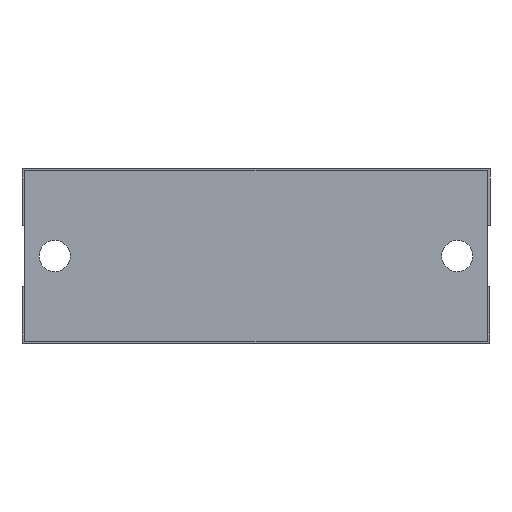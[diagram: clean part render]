
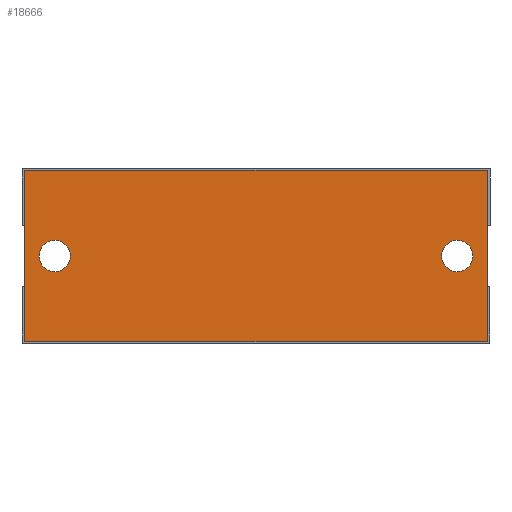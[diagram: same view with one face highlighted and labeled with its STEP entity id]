
A CAD part, front view. The second image highlights one B-rep face of the part: STEP entity #18666.
In plain terms, the highlighted planar face has unit normal (0, -1, 0).
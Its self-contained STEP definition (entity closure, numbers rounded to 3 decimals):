
#103 = EDGE_CURVE ( 'NONE', #24134, #15596, #21585, .T. ) ;
#644 = DIRECTION ( 'NONE',  ( 0., 0., 1. ) ) ;
#749 = CARTESIAN_POINT ( 'NONE',  ( 40., -4., -3.1 ) ) ;
#958 = CARTESIAN_POINT ( 'NONE',  ( 46., -4., 17. ) ) ;
#1143 = VERTEX_POINT ( 'NONE', #749 ) ;
#1159 = CIRCLE ( 'NONE', #1672, 3.1 ) ;
#1249 = DIRECTION ( 'NONE',  ( 1., 0., 0. ) ) ;
#1648 = ORIENTED_EDGE ( 'NONE', *, *, #28047, .F. ) ;
#1672 = AXIS2_PLACEMENT_3D ( 'NONE', #27754, #3573, #23577 ) ;
#1909 = DIRECTION ( 'NONE',  ( 0., 0., 1. ) ) ;
#2005 = EDGE_CURVE ( 'NONE', #8022, #1143, #21288, .T. ) ;
#2029 = CIRCLE ( 'NONE', #25755, 3.1 ) ;
#2237 = VERTEX_POINT ( 'NONE', #12286 ) ;
#2317 = DIRECTION ( 'NONE',  ( -1., 0., 0. ) ) ;
#3573 = DIRECTION ( 'NONE',  ( 0., 1., 0. ) ) ;
#5420 = ORIENTED_EDGE ( 'NONE', *, *, #15374, .T. ) ;
#7353 = VECTOR ( 'NONE', #644, 1000. ) ;
#7406 = EDGE_CURVE ( 'NONE', #1143, #8022, #2029, .T. ) ;
#7451 = DIRECTION ( 'NONE',  ( 0., 0., 1. ) ) ;
#8022 = VERTEX_POINT ( 'NONE', #15067 ) ;
#8197 = ORIENTED_EDGE ( 'NONE', *, *, #9764, .F. ) ;
#8342 = VECTOR ( 'NONE', #2317, 1000. ) ;
#9375 = DIRECTION ( 'NONE',  ( 0., 1., 0. ) ) ;
#9764 = EDGE_CURVE ( 'NONE', #18146, #24134, #27531, .T. ) ;
#10134 = LINE ( 'NONE', #14367, #7353 ) ;
#10954 = DIRECTION ( 'NONE',  ( 0., 1., 0. ) ) ;
#12286 = CARTESIAN_POINT ( 'NONE',  ( -46., -4., -17. ) ) ;
#12523 = VECTOR ( 'NONE', #1249, 1000. ) ;
#13111 = EDGE_CURVE ( 'NONE', #15596, #2237, #20191, .T. ) ;
#13323 = FACE_OUTER_BOUND ( 'NONE', #28425, .T. ) ;
#13801 = AXIS2_PLACEMENT_3D ( 'NONE', #15955, #22685, #27179 ) ;
#13976 = EDGE_LOOP ( 'NONE', ( #5420, #26952 ) ) ;
#14291 = VERTEX_POINT ( 'NONE', #23171 ) ;
#14367 = CARTESIAN_POINT ( 'NONE',  ( -46., -4., 17. ) ) ;
#15067 = CARTESIAN_POINT ( 'NONE',  ( 40., -4., 3.1 ) ) ;
#15192 = CARTESIAN_POINT ( 'NONE',  ( 40., -4., 0. ) ) ;
#15374 = EDGE_CURVE ( 'NONE', #16764, #14291, #16405, .T. ) ;
#15416 = FACE_BOUND ( 'NONE', #13976, .T. ) ;
#15596 = VERTEX_POINT ( 'NONE', #18290 ) ;
#15955 = CARTESIAN_POINT ( 'NONE',  ( 0., -4., 0. ) ) ;
#16017 = ORIENTED_EDGE ( 'NONE', *, *, #103, .F. ) ;
#16405 = CIRCLE ( 'NONE', #26751, 3.1 ) ;
#16764 = VERTEX_POINT ( 'NONE', #18304 ) ;
#16880 = EDGE_CURVE ( 'NONE', #14291, #16764, #1159, .T. ) ;
#17443 = CARTESIAN_POINT ( 'NONE',  ( 46., -4., 17. ) ) ;
#17507 = PLANE ( 'NONE',  #13801 ) ;
#17613 = CARTESIAN_POINT ( 'NONE',  ( -46., -4., 17. ) ) ;
#18146 = VERTEX_POINT ( 'NONE', #17613 ) ;
#18290 = CARTESIAN_POINT ( 'NONE',  ( 46., -4., -17. ) ) ;
#18304 = CARTESIAN_POINT ( 'NONE',  ( -40., -4., -3.1 ) ) ;
#18387 = CARTESIAN_POINT ( 'NONE',  ( 40., -4., 0. ) ) ;
#18447 = AXIS2_PLACEMENT_3D ( 'NONE', #15192, #10954, #1909 ) ;
#18666 = ADVANCED_FACE ( 'NONE', ( #13323, #21373, #15416 ), #17507, .F. ) ;
#18683 = CARTESIAN_POINT ( 'NONE',  ( 46., -4., 17. ) ) ;
#20191 = LINE ( 'NONE', #21687, #8342 ) ;
#21288 = CIRCLE ( 'NONE', #18447, 3.1 ) ;
#21373 = FACE_BOUND ( 'NONE', #22919, .T. ) ;
#21585 = LINE ( 'NONE', #958, #24717 ) ;
#21687 = CARTESIAN_POINT ( 'NONE',  ( 46., -4., -17. ) ) ;
#21729 = CARTESIAN_POINT ( 'NONE',  ( -40., -4., 0. ) ) ;
#22078 = ORIENTED_EDGE ( 'NONE', *, *, #2005, .T. ) ;
#22685 = DIRECTION ( 'NONE',  ( 0., 1., 0. ) ) ;
#22919 = EDGE_LOOP ( 'NONE', ( #25518, #22078 ) ) ;
#23171 = CARTESIAN_POINT ( 'NONE',  ( -40., -4., 3.1 ) ) ;
#23577 = DIRECTION ( 'NONE',  ( 0., 0., -1. ) ) ;
#23790 = DIRECTION ( 'NONE',  ( 0., 0., -1. ) ) ;
#24134 = VERTEX_POINT ( 'NONE', #17443 ) ;
#24717 = VECTOR ( 'NONE', #25324, 1000. ) ;
#25324 = DIRECTION ( 'NONE',  ( 0., 0., -1. ) ) ;
#25518 = ORIENTED_EDGE ( 'NONE', *, *, #7406, .T. ) ;
#25755 = AXIS2_PLACEMENT_3D ( 'NONE', #18387, #9375, #7451 ) ;
#26010 = DIRECTION ( 'NONE',  ( 0., 1., 0. ) ) ;
#26751 = AXIS2_PLACEMENT_3D ( 'NONE', #21729, #26010, #23790 ) ;
#26952 = ORIENTED_EDGE ( 'NONE', *, *, #16880, .T. ) ;
#27179 = DIRECTION ( 'NONE',  ( 0., 0., 1. ) ) ;
#27531 = LINE ( 'NONE', #18683, #12523 ) ;
#27701 = ORIENTED_EDGE ( 'NONE', *, *, #13111, .F. ) ;
#27754 = CARTESIAN_POINT ( 'NONE',  ( -40., -4., 0. ) ) ;
#28047 = EDGE_CURVE ( 'NONE', #2237, #18146, #10134, .T. ) ;
#28425 = EDGE_LOOP ( 'NONE', ( #1648, #27701, #16017, #8197 ) ) ;
